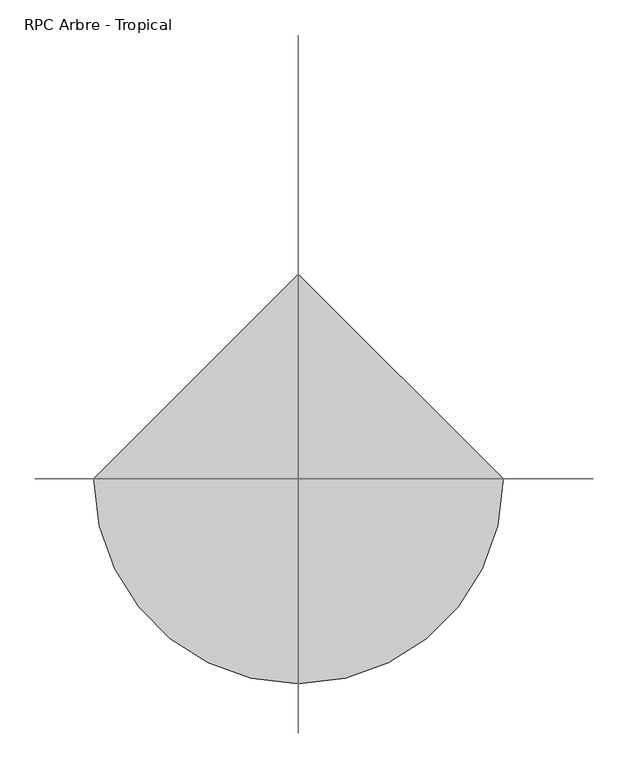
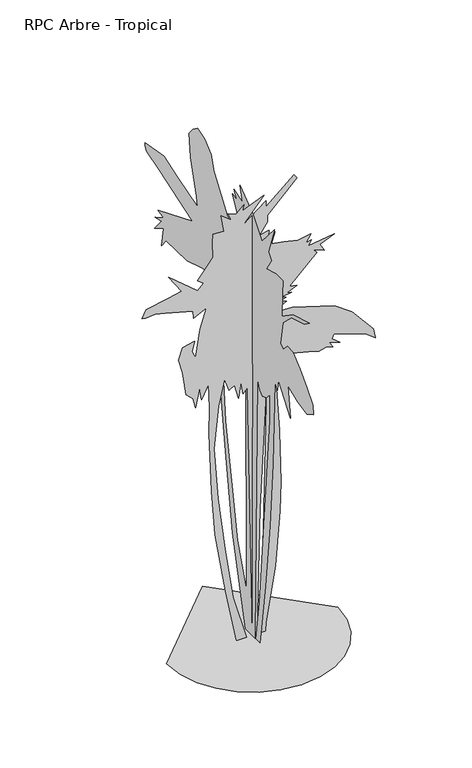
"""IFC4 building model written with IfcOpenShell, lengths in millimetres: geographic element geometry, RPC Arbre - Tropical : Palmier princesse - 3.6 mètres."""

from ifc_helpers import new_model, si_unit, origin, place, context, project, spatial, triangles, source, transform, mapped, element, save


def rpc_arbre_tropical_cbeb6f3c(model_context):
    return source(origin(), model_context, "Body", "Tessellation", [
        triangles([(-643.5729263, 0.0, 0.0), (-626.5554331, -147.5096553, 0.0), (-578.0829557, -282.9723171, 0.0), (-502.0430114, -402.5097336, 0.0), (-402.3130523, -502.2396927, 0.0), (-282.7756539, -578.2796371, 0.0), (-147.3127378, -626.7520781, 0.0), (0.1966992, -643.7695713, 0.0), (147.7063276, -626.7520781, 0.0), (283.1689802, -578.2796371, 0.0), (402.7064149, -502.2396927, 0.0), (502.436374, -402.5097336, 0.0), (578.4763184, -282.9723171, 0.0), (626.948723, -147.5094101, 0.0), (643.9662163, 5.63e-05, 0.0), (0.1965867, 643.7695713, 0.0), (313.9964953, -0.0001039, 3550.9727875), (336.8464814, -9.66e-05, 3516.6978447), (115.9633523, -6.9e-05, 3299.6230133), (115.9633523, -5.94e-05, 3246.323069), (55.0301394, -4.68e-05, 3158.7228928), (127.388091, -4.59e-05, 3173.9481262), (123.5800931, -3.79e-05, 3128.2480087), (173.0883084, -3.88e-05, 3147.2980087), (146.4298339, -2.45e-05, 3059.6981232), (237.8295057, -1.72e-05, 3044.4731804), (344.463967, -7e-06, 3017.8230629), (443.4788898, -5.4e-06, 3036.8480644), (405.3964396, 2.9e-06, 2979.7230629), (447.2863973, 3.7e-06, 2987.3481789), (424.4389183, 9.3e-06, 2949.2731773), (618.6612202, 1.44e-05, 2975.9230042), (508.221377, 1.7e-05, 2930.2231773), (542.4963561, 2.96e-05, 2869.2981171), (458.7138974, 1.92e-05, 2903.5730598), (485.3713909, 2.6e-05, 2873.0981758), (279.7214799, 5.1e-05, 2675.0733444), (336.8464814, 5.6e-05, 2663.6484604), (260.6790012, 5.75e-05, 2633.1732857), (294.9539804, 6.06e-05, 2625.5734589), (222.5965147, 5.9e-05, 2614.1482841), (253.0640046, 6.33e-05, 2598.8983429), (203.5545266, 6.35e-05, 2583.6734001), (256.8714938, 6.96e-05, 2564.6234001), (138.8133384, 7.38e-05, 2507.4983986), (302.571466, 8.28e-05, 2503.6983398), (618.6612202, 0.0001165, 2404.6785118), (748.1461945, 0.0001401, 2309.4710964), (911.9035681, 0.0001824, 2119.0536495), (927.1360685, 0.0001975, 2039.0787346), (862.3961248, 0.0001847, 2092.3961197), (614.8537491, 0.0001558, 2183.796064), (599.621285, 0.0001612, 2149.5211212), (660.5537212, 0.0001731, 2100.0112072), (580.5788063, 0.000165, 2122.8611206), (607.2362998, 0.0001738, 2080.9712357), (553.9213491, 0.0001684, 2096.2037361), (500.603855, 0.0001677, 2084.7787067), (424.4389183, 0.0001605, 2103.8211491), (294.9539804, 0.0001478, 2138.0960918), (165.4715677, 0.0001324, 2187.6036804), (203.5545266, 0.0002474, 1555.4214832), (214.979774, 0.0003208, 1147.9292776), (207.3630332, 0.0003613, 919.4294168), (176.8963064, 0.000436, 492.8972034), (104.5381049, 0.0005079, 70.1739552), (100.7298617, 0.0005209, 0.0040319), (55.0301394, 0.0005192, 6.64e-05), (85.4966164, 0.0003735, 816.6069866), (115.9633523, 0.0001415, 2122.8611206), (58.8383871, 0.0003408, 991.7893896), (35.9881467, 0.0005174, 0.0040343), (1.7132677, 0.0005156, 0.0040356), (-36.3698072, 0.000159, 1981.9537331), (-70.644784, 0.000164, 1943.8713192), (-85.8780248, 0.0001456, 2042.8862057), (-101.1115154, 0.0001666, 1921.0212605), (-131.5782422, 0.0001446, 2035.2712635), (-173.469735, 0.0001473, 2008.6112629), (-207.7447141, 0.0001278, 2107.6286201), (-253.4456855, 0.0001609, 1909.5962311), (-287.7181575, 0.0002171, 1585.8889549), (-257.2531747, 0.0002915, 1178.3967493), (-203.9362075, 0.0003691, 759.4819851), (-143.00299, 0.0004443, 355.7972869), (-43.9865502, 0.0005125, 0.0080045), (-116.3447516, 0.0005097, 0.00404), (-200.1279552, 0.0004299, 420.5397377), (-280.1031608, 0.00034, 900.3894453), (-306.7606361, 0.0002753, 1254.5642658), (-325.8031148, 0.000192, 1715.3714584), (-321.9931003, 0.0001554, 1921.0212605), (-329.6106222, 0.000121, 2111.4362366), (-379.1180655, 0.0001375, 2004.8037918), (-394.353073, 0.000119, 2103.8211491), (-424.8205447, 0.0001434, 1959.1038197), (-443.8605526, 0.0001288, 2035.2712635), (-497.1780104, 0.0001172, 2084.7787067), (-523.8355039, 8.25e-05, 2271.3860664), (-554.3029756, 6.12e-05, 2381.8284531), (-523.8355039, 4.71e-05, 2469.4184555), (-432.4355596, 4.83e-05, 2488.4608978), (-451.4780382, 6.1e-05, 2412.293454), (-424.8205447, 7.26e-05, 2355.1710686), (-390.5430585, 3.62e-05, 2568.4234589), (-344.8430863, 1.06e-05, 2724.57323), (-440.0530452, 1.46e-05, 2675.0733444), (-443.8605526, 4.2e-06, 2732.1983459), (-653.317971, -1.66e-05, 2789.3233475), (-729.4854149, -2.39e-05, 2808.348349), (-801.8428442, -2.62e-05, 2800.7482315), (-828.5028448, -2.89e-05, 2808.348349), (-798.0353731, -3.76e-05, 2865.4730598), (-630.467985, -3.52e-05, 2899.7482933), (-531.4529895, -3.43e-05, 2922.5980614), (-630.467985, -6.52e-05, 3067.3229485), (-409.5855735, -2.06e-05, 2880.7232918), (-367.6930724, -2.67e-05, 2926.4231186), (-409.5855735, -3.49e-05, 2960.6980614), (-337.2281078, -4.83e-05, 3055.8980644), (-295.3356431, -5.57e-05, 3109.2230072), (-299.1456395, -7.63e-05, 3223.4730103), (-295.3356431, -8.84e-05, 3292.0228958), (-211.5526939, -8.28e-05, 3284.3977798), (-234.4029343, -0.0001078, 3417.6977829), (-158.2362353, -9.3e-05, 3356.7480148), (-181.0864758, -0.0001044, 3413.8727257), (-120.1530039, -9.66e-05, 3387.2228989), (-63.0282885, -0.0001039, 3444.3479004), (-74.4530318, -9.63e-05, 3398.6477829), (89.305114, -0.0001003, 3467.1976685), (-74.4530318, -7.52e-05, 3280.5980118), (104.5381049, -9.06e-05, 3417.6977829), (104.5381049, -8.18e-05, 3368.1728989), (0.1966746, 109.7849322, 2058.8987457), (0.1966737, 136.4211607, 1982.7937981), (0.1966621, 178.2778899, 2203.4961697), (0.1966558, 208.7196183, 2294.8185024), (0.1966526, 254.3823471, 2218.7160255), (0.1966467, 322.8748052, 2142.6110779), (0.1966388, 398.9797528, 2104.5612202), (0.1966634, 345.7072778, 1491.9265217), (0.1967073, 189.6938719, 643.3695957), (0.1967308, 75.5382035, 312.3198172), (0.196676, 83.1486947, 2119.7812214), (0.196648, 711.0045662, 3599.997702), (0.1966593, 623.4846176, 3569.5478165), (0.1966719, 535.964669, 3497.2478691), (0.196679, 501.7196663, 3394.522744), (0.1966946, 406.5897534, 3253.722908), (0.1967081, 322.8748052, 3135.7731308), (0.1967188, 242.9660926, 3093.8980705), (0.1967273, 155.4471432, 3158.5979004), (0.1967093, 258.1873292, 3352.6729729), (0.196717, 197.3038725, 3337.4480301), (0.1967102, 239.1608561, 3398.3228027), (0.1967248, 125.005424, 3364.0728584), (0.1967173, 159.2519073, 3482.0479248), (0.1967415, -11.9810172, 3352.6729729), (0.1967594, -126.1366685, 3208.0730782), (0.1967733, -289.7598207, 3398.3228027), (0.1967703, -209.8506176, 3177.6229019), (0.1967768, -251.7073468, 3128.1480148), (0.1967717, -183.21438, 3025.4231804), (0.1967856, -308.7848222, 3059.6731247), (0.1967965, -400.1097347, 3059.6731247), (0.1967989, -392.4997341, 2949.3231743), (0.1968038, -388.6947701, 2770.4733353), (0.1968176, -529.4871574, 2869.398111), (0.1968412, -742.5770576, 2930.2731743), (0.1968353, -681.694582, 2884.6230537), (0.1968168, -514.2646854, 2835.1481667), (0.1968064, -400.1097347, 2728.598275), (0.1968079, -365.8622612, 2542.1483185), (0.1968131, -403.914735, 2519.3235489), (0.1968177, -457.1872101, 2576.3982628), (0.1968265, -529.4871574, 2572.5984947), (0.1968401, -624.6146358, 2496.4935471), (0.1968533, -712.1345844, 2401.3659233), (0.1968656, -792.0445324, 2310.0409744), (0.1968686, -799.6544603, 2237.7410271), (0.1968597, -712.1345844, 2188.2735523), (0.1968448, -594.1746334, 2214.9111706), (0.1968283, -468.602211, 2268.1835003), (0.1968387, -495.2396839, 2024.6512722), (0.1968143, -343.0322957, 2233.9360268), (0.1968151, -327.8122945, 2146.4186943), (0.1968101, -297.3698031, 2192.0785526), (0.1968268, -270.7323302, 1526.1715244), (0.1968377, -232.6816004, 1008.6668478), (0.1968461, -175.6038889, 498.7721718), (0.1968523, -103.3054313, 0.0065168), (0.1968459, -50.03272, 0.0065184), (0.1968415, -91.8899398, 316.1248175), (0.1968127, -232.6816004, 1845.8088455), (0.1968065, -232.6816004, 2055.0937454), (0.1968026, -187.0193803, 2001.8212704), (0.1967969, -133.7469144, 1982.7937981), (0.196792, -99.5001857, 2009.431271), (0.1967862, -69.0587072, 2081.7287476), (0.1968445, -38.6169743, 0.0104859), (0.1968297, 86.9539493, 0.0065225), (0.1967899, 254.3823471, 662.3945972), (0.1967589, 357.1222787, 1294.0566227), (0.1967248, 456.0572282, 2039.8712734), (0.1967207, 456.0572282, 2180.6635517), (0.1967161, 505.5246666, 2135.0010773), (0.1967156, 459.8621922, 2336.6759766), (0.1967101, 501.7196663, 2351.8984486), (0.1967089, 478.8871937, 2485.0785461), (0.1967046, 520.7446678, 2462.2485443), (0.1967001, 535.964669, 2549.7734344), (0.1966864, 657.7320911, 2523.123317), (0.1966655, 847.9894461, 2462.2485443), (0.1966331, 1121.9642927, 2454.6385437), (0.1966285, 1179.0417681, 2382.338451), (0.1966272, 1152.4042952, 2530.7484329), (0.1966151, 1270.3666443, 2466.0535446), (0.1966227, 1179.0417681, 2576.3982628), (0.1966133, 1262.7566437, 2557.3732613), (0.1966241, 1156.2117662, 2618.2483246), (0.1966154, 1224.7041698, 2637.2983246), (0.1966631, 779.4970425, 2819.9232239), (0.196607, 1213.2892416, 2964.5231186), (0.1965862, 1376.9115944, 3010.1982376), (0.1965829, 1395.9365959, 3044.4481819), (0.1965822, 1395.9365959, 3067.2729515), (0.1966104, 1148.5992949, 3109.1230133), (0.1966334, 969.7568682, 3052.0480087), (0.1966662, 714.8095665, 2972.1482346), (0.1966629, 722.4195671, 3052.0480087), (0.1966456, 802.3295151, 3314.5979713), (0.196638, 821.3545166, 3493.4478104), (0.1966421, 771.8870419, 3554.3478722), (0.1967197, 29.876231, 2180.6635517), (0.1967832, 3.2397229, 156.3063931), (0.1967254, -11.9809423, 2157.8336952)], [[15, 16, 1], [14, 15, 1], [14, 1, 2], [13, 14, 2], [13, 2, 3], [13, 3, 4], [12, 13, 4], [11, 12, 4], [11, 4, 5], [11, 5, 6], [11, 6, 7], [11, 7, 8], [11, 8, 9], [11, 9, 10], [31, 32, 33], [115, 116, 117], [39, 40, 41], [76, 77, 78], [53, 54, 55], [95, 96, 97], [130, 131, 132], [128, 129, 130], [37, 38, 39], [93, 94, 95], [33, 34, 35], [49, 50, 51], [31, 33, 35], [55, 56, 57], [124, 125, 126], [41, 42, 43], [126, 127, 128], [27, 28, 29], [43, 44, 45], [29, 30, 31], [74, 75, 76], [23, 24, 25], [132, 133, 134], [101, 102, 103], [106, 107, 108], [100, 101, 103], [21, 22, 23], [128, 130, 132], [126, 128, 132], [78, 79, 80], [85, 86, 87], [85, 87, 88], [84, 85, 88], [84, 88, 89], [83, 84, 89], [83, 89, 90], [82, 83, 90], [82, 90, 91], [81, 82, 91], [81, 91, 92], [48, 49, 51], [48, 51, 52], [111, 112, 113], [47, 48, 52], [110, 111, 113], [110, 113, 114], [109, 110, 114], [134, 17, 18], [134, 18, 19], [132, 134, 19], [95, 97, 98], [67, 68, 69], [66, 67, 69], [65, 66, 69], [64, 65, 69], [64, 69, 70], [63, 64, 70], [62, 63, 70], [61, 62, 70], [124, 126, 132], [132, 19, 20], [132, 20, 21], [95, 98, 99], [122, 123, 124], [99, 100, 103], [99, 103, 104], [72, 73, 74], [71, 72, 74], [70, 71, 74], [70, 74, 76], [118, 119, 120], [95, 99, 104], [93, 95, 104], [35, 36, 37], [80, 81, 92], [80, 92, 93], [108, 109, 114], [108, 114, 115], [108, 115, 117], [106, 108, 117], [31, 35, 37], [46, 47, 52], [46, 52, 53], [46, 53, 55], [46, 55, 57], [46, 57, 58], [46, 58, 59], [46, 59, 60], [46, 60, 61], [45, 46, 61], [80, 93, 104], [106, 117, 118], [29, 31, 37], [27, 29, 37], [26, 27, 37], [25, 26, 37], [121, 122, 124], [121, 124, 132], [121, 132, 21], [76, 78, 80], [80, 104, 105], [70, 76, 80], [70, 80, 105], [61, 70, 105], [45, 61, 105], [45, 105, 106], [43, 45, 106], [41, 43, 106], [41, 106, 118], [41, 118, 120], [41, 120, 121], [41, 121, 21], [41, 21, 23], [41, 23, 25], [41, 25, 37], [41, 37, 39], [235, 144, 145], [144, 235, 236], [219, 220, 221], [160, 161, 162], [169, 170, 171], [169, 171, 172], [217, 218, 219], [215, 216, 217], [184, 185, 186], [135, 136, 137], [168, 169, 172], [168, 172, 173], [206, 207, 208], [157, 158, 159], [221, 222, 223], [155, 156, 157], [186, 187, 188], [145, 135, 146], [145, 146, 147], [145, 147, 148], [145, 148, 149], [145, 149, 150], [145, 150, 151], [153, 154, 155], [145, 151, 152], [235, 145, 152], [210, 211, 212], [192, 193, 194], [191, 192, 194], [191, 194, 195], [190, 191, 195], [189, 190, 195], [188, 189, 195], [188, 195, 196], [165, 166, 167], [153, 155, 157], [153, 157, 159], [153, 159, 160], [226, 227, 228], [225, 226, 228], [224, 225, 228], [223, 224, 228], [223, 228, 229], [223, 229, 230], [208, 209, 210], [201, 202, 203], [162, 163, 164], [160, 162, 164], [153, 160, 164], [214, 215, 217], [164, 165, 167], [164, 167, 168], [235, 152, 153], [235, 153, 164], [235, 164, 168], [235, 168, 173], [235, 173, 174], [237, 235, 174], [237, 174, 175], [180, 181, 182], [179, 180, 182], [179, 182, 183], [179, 183, 184], [178, 179, 184], [177, 178, 184], [176, 177, 184], [175, 176, 184], [237, 175, 184], [237, 184, 186], [237, 186, 188], [237, 188, 196], [237, 196, 197], [217, 219, 221], [214, 217, 221], [214, 221, 223], [213, 214, 223], [212, 213, 223], [212, 223, 230], [197, 198, 199], [197, 199, 200], [237, 197, 200], [236, 237, 200], [236, 200, 201], [236, 201, 203], [144, 236, 203], [143, 144, 203], [142, 143, 203], [142, 203, 204], [142, 204, 205], [141, 142, 205], [141, 205, 206], [140, 141, 206], [140, 206, 208], [139, 140, 208], [138, 139, 208], [138, 208, 210], [232, 233, 234], [232, 234, 146], [231, 232, 146], [210, 212, 230], [138, 210, 230], [138, 230, 231], [138, 231, 146], [138, 146, 135], [138, 135, 137]], closed=False),
    ])


if __name__ == "__main__":
    model = new_model("IFC4")
    model_context = context("Model", 3, world=origin())
    ifc_project = project(units=[si_unit("LENGTHUNIT", "METRE", prefix="MILLI")], contexts=[model_context])
    site = spatial("IfcSite", under=ifc_project)
    building = spatial("IfcBuilding", under=site)
    placement = place(None, origin())
    rpc_arbre_tropical_shape = rpc_arbre_tropical_cbeb6f3c(model_context)
    element("IfcGeographicElement", 1, ObjectType="RPC Arbre - Tropical : Palmier princesse - 3.6 mètres", at=placement, inside=building, context=model_context, shape_type="MappedRepresentation", body=[
        mapped(rpc_arbre_tropical_shape, transform((0.0, 0.0, 0.0), x_axis=(1.0, 0.0, 0.0), y_axis=(0.0, 1.0, 0.0), z_axis=(0.0, 0.0, 1.0))),
    ])
    save(model, "model.ifc")
